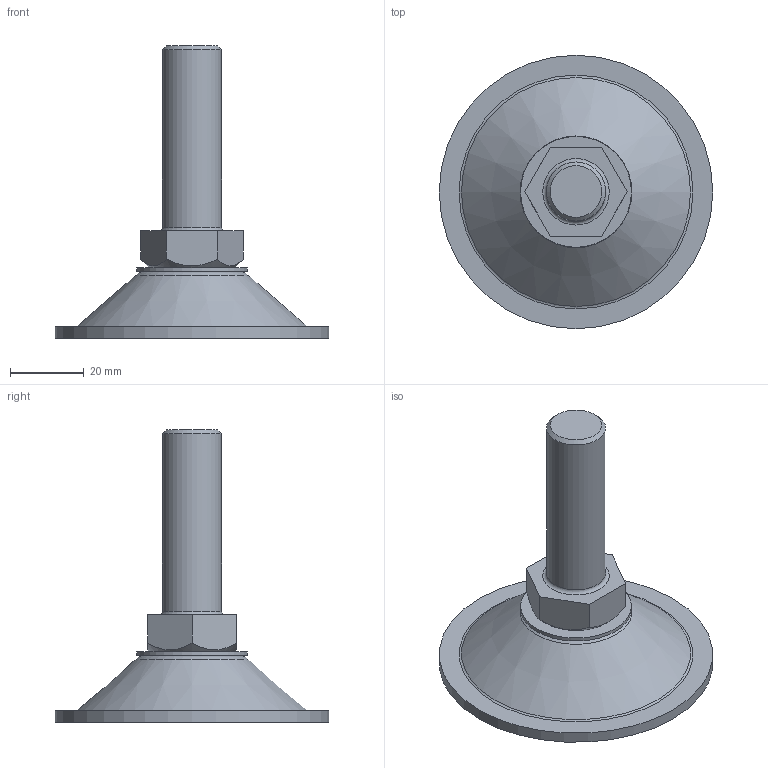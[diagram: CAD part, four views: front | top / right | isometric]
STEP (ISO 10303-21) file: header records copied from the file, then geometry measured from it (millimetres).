
FILE_DESCRIPTION(/* description */ (''),/* implementation_level */ '2;1');
FILE_NAME(/* name */ 'D:\조절자\PF\PF-M16-50L.stp',/* time_stamp */ '2016-03-14T14:56:29+09:00',/* author */ ('GS-DT-1-001'),/* organization */ (''),/* preprocessor_version */ 'ST-DEVELOPER v15.6',/* originating_system */ 'Autodesk Inventor LT ',/* authorisation */ '');
FILE_SCHEMA (('AUTOMOTIVE_DESIGN { 1 0 10303 214 3 1 1 }'));
Length unit declared in the file: millimetre
Products named in the file (1): PF-M16-50L
Bounding box: 74 x 74 x 79 mm (x, y, z)
Volume: 31177.8 mm3; surface area: 17738.6 mm2
Topology: 4 solids, 4 shells, 37 faces, 72 edges, 46 vertices
Faces by surface type: plane 17, cylinder 8, cone 7, torus 5
Full cylindrical faces by diameter (mm): 6.912 x1, 8 x1, 8.2 x1, 8.3 x1, 16 x2, 30 x1, 74 x1
Entity records: 815 total; most frequent: DIRECTION 144, CARTESIAN_POINT 136, ORIENTED_EDGE 92, AXIS2_PLACEMENT_3D 66, EDGE_LOOP 64, EDGE_CURVE 46, VERTEX_POINT 40, FACE_OUTER_BOUND 37
